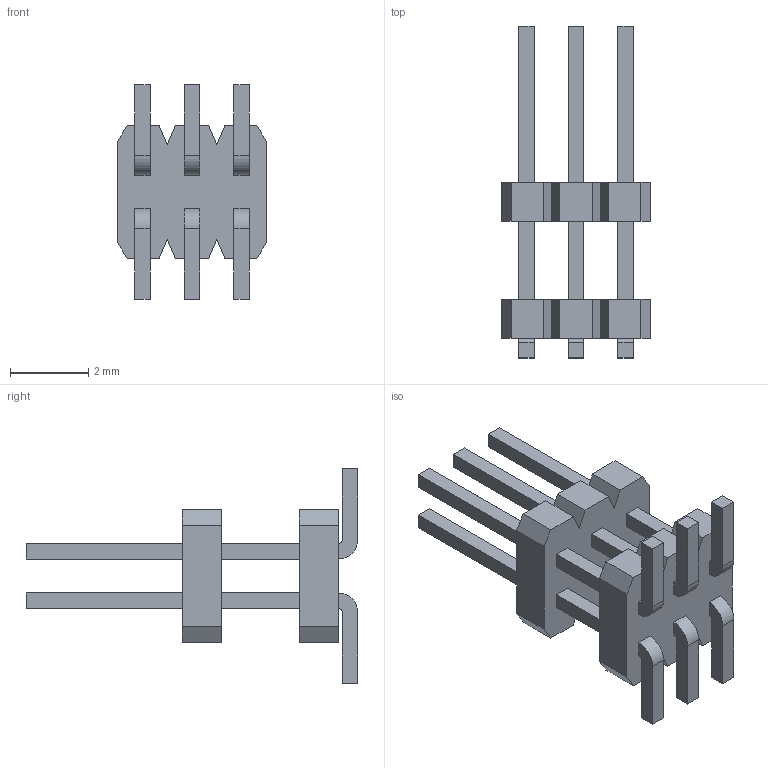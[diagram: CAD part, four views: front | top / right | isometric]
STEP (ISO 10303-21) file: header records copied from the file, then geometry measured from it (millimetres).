
FILE_DESCRIPTION (( 'STEP AP214' ), '1' );
FILE_NAME ('PZ127-2-3-S-C4.0-XX-DP(L8.5) (1.27邧齬 邧呿 齬渀 泂え-HCTL).STEP', '2024-10-29T01:33:09', ( '' ), ( '' ), 'SwSTEP 2.0', 'SolidWorks 2022', '' );
FILE_SCHEMA (( 'AUTOMOTIVE_DESIGN' ));
Length unit declared in the file: millimetre
Products named in the file (1): PZ127-2-3-S-C4.0-XX-DP(L8.5) (1.27邧齬 邧呿 齬渀 泂え-HCTL)
Bounding box: 3.81 x 8.5 x 5.5 mm (x, y, z)
Volume: 32.7 mm3; surface area: 159.7 mm2
Topology: 1 solids, 1 shells, 140 faces, 372 edges, 248 vertices
Faces by surface type: plane 128, cylinder 12
Entity records: 5390 total; most frequent: CARTESIAN_POINT 761, ORIENTED_EDGE 744, DIRECTION 678, EDGE_CURVE 372, LINE 348, VECTOR 348, VERTEX_POINT 248, AXIS2_PLACEMENT_3D 165
